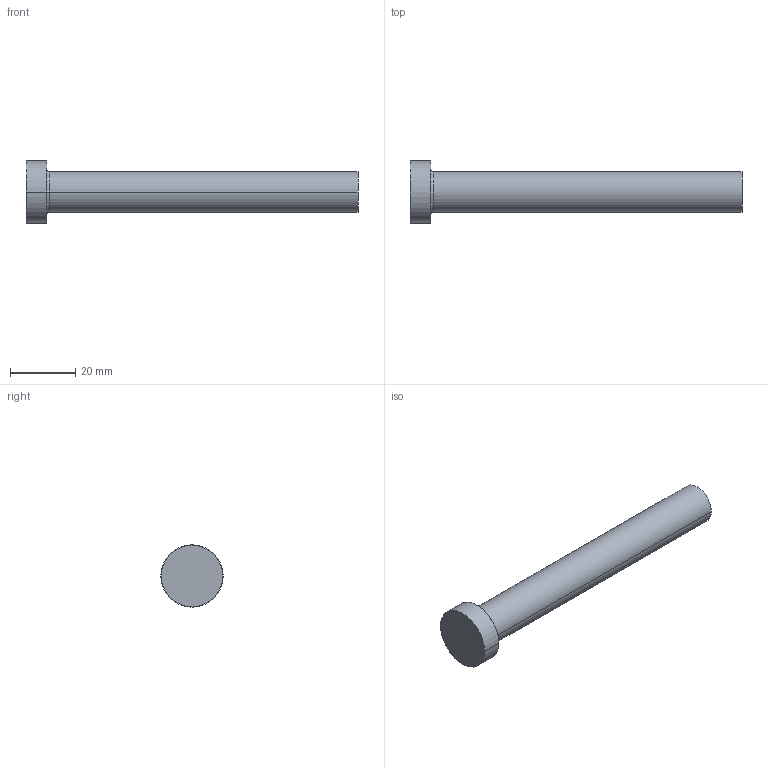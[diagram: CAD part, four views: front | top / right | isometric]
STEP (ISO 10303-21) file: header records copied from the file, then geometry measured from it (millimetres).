
FILE_DESCRIPTION (( 'STEP AP214' ), '1' );
FILE_NAME ('P32-4.STEP', '2020-03-12T10:39:03', ( '' ), ( '' ), 'SwSTEP 2.0', 'SolidWorks 2018', '' );
FILE_SCHEMA (( 'AUTOMOTIVE_DESIGN' ));
Length unit declared in the file: inch
Products named in the file (1): P32-4
Bounding box: 101.6 x 19.05 x 19.05 mm (x, y, z)
Volume: 13123.8 mm3; surface area: 4609.8 mm2
Topology: 1 solids, 1 shells, 13 faces, 24 edges, 14 vertices
Faces by surface type: cone 4, cylinder 4, plane 3, torus 2
Entity records: 366 total; most frequent: DIRECTION 68, CARTESIAN_POINT 52, ORIENTED_EDGE 48, AXIS2_PLACEMENT_3D 30, EDGE_CURVE 24, CIRCLE 16, VERTEX_POINT 14, EDGE_LOOP 14
